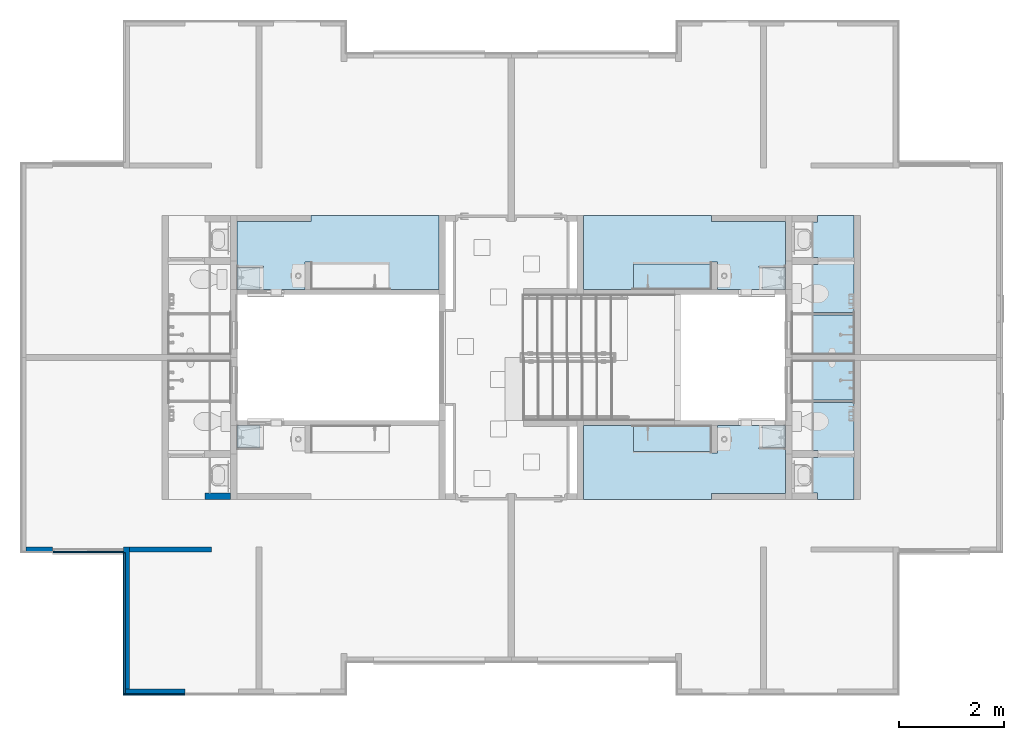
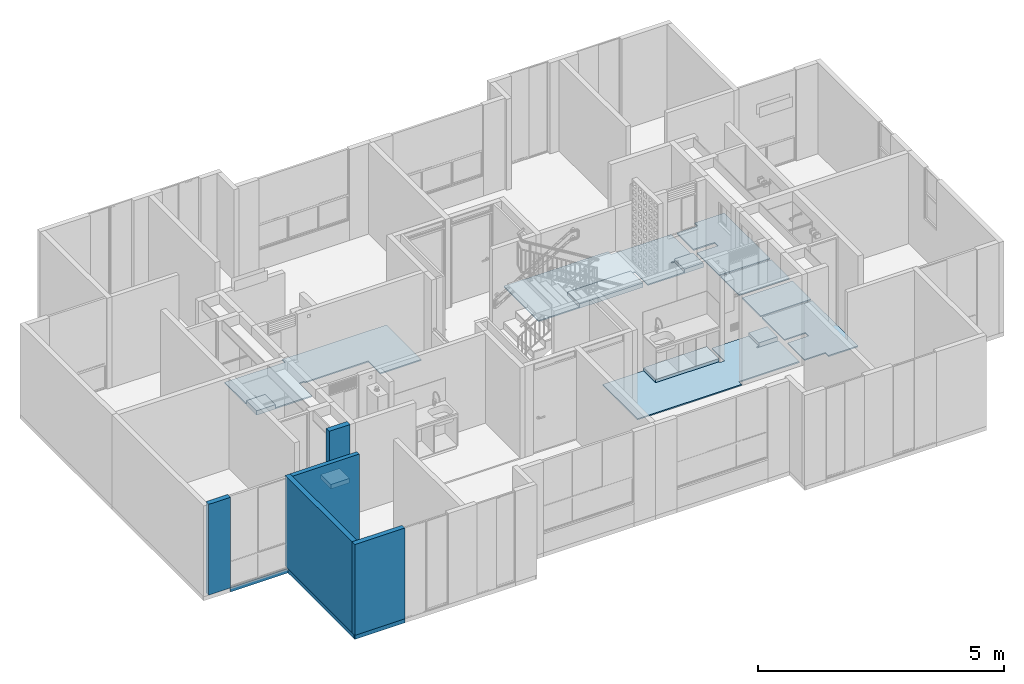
# One storey, part 3 of 48: 11 slabs, 8 walls.
"""IFC4 building model written with IfcOpenShell, lengths in metres."""

from ifc_helpers import new_model, entity, si_unit, converted_unit, derived_unit, direction, frame, origin, place, context, subcontext, project, spatial, indexed_curve, outline, extrude, material, constituent, constituent_set, type_object, element, save


model = new_model("IFC4")

# Units and contexts
model_context = context("Model", 3, precision=1e-05, world=origin(), true_north=direction((6.123031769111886e-17, 1.0)))
body_context = subcontext(model_context, "Body", "Model", "MODEL_VIEW")
ifc_project = project(units=[si_unit("LENGTHUNIT", "METRE"), si_unit("AREAUNIT", "SQUARE_METRE"), si_unit("VOLUMEUNIT", "CUBIC_METRE"), converted_unit("PLANEANGLEUNIT", "DEGREE", entity("IfcRatioMeasure", 0.017453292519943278), si_unit("PLANEANGLEUNIT", "RADIAN"), dimensions=[0, 0, 0, 0, 0, 0, 0]), si_unit("MASSUNIT", "GRAM", prefix="KILO"), derived_unit("MASSDENSITYUNIT", [(si_unit("MASSUNIT", "GRAM", prefix="KILO"), 1), (si_unit("LENGTHUNIT", "METRE"), -3)]), derived_unit("IONCONCENTRATIONUNIT", [(si_unit("MASSUNIT", "GRAM", prefix="KILO"), 1), (si_unit("LENGTHUNIT", "METRE"), -3)]), derived_unit("MOMENTOFINERTIAUNIT", [(si_unit("LENGTHUNIT", "METRE"), 4)]), si_unit("TIMEUNIT", "SECOND"), si_unit("FREQUENCYUNIT", "HERTZ"), si_unit("THERMODYNAMICTEMPERATUREUNIT", "DEGREE_CELSIUS"), derived_unit("THERMALTRANSMITTANCEUNIT", [(si_unit("MASSUNIT", "GRAM", prefix="KILO"), 1), (si_unit("THERMODYNAMICTEMPERATUREUNIT", "KELVIN"), -1), (si_unit("TIMEUNIT", "SECOND"), -3)]), derived_unit("THERMALCONDUCTANCEUNIT", [(si_unit("MASSUNIT", "GRAM", prefix="KILO"), 1), (si_unit("THERMODYNAMICTEMPERATUREUNIT", "KELVIN"), -1), (si_unit("TIMEUNIT", "SECOND"), -3), (si_unit("LENGTHUNIT", "METRE"), 1)]), derived_unit("VOLUMETRICFLOWRATEUNIT", [(si_unit("LENGTHUNIT", "METRE"), 3), (si_unit("TIMEUNIT", "SECOND"), -1)]), derived_unit("MASSFLOWRATEUNIT", [(si_unit("MASSUNIT", "GRAM", prefix="KILO"), 1), (si_unit("TIMEUNIT", "SECOND"), -1)]), derived_unit("ROTATIONALFREQUENCYUNIT", [(si_unit("TIMEUNIT", "SECOND"), -1)]), si_unit("ELECTRICCURRENTUNIT", "AMPERE"), si_unit("ELECTRICVOLTAGEUNIT", "VOLT"), si_unit("POWERUNIT", "WATT"), si_unit("FORCEUNIT", "NEWTON", prefix="KILO"), si_unit("ILLUMINANCEUNIT", "LUX"), si_unit("LUMINOUSFLUXUNIT", "LUMEN"), si_unit("LUMINOUSINTENSITYUNIT", "CANDELA"), derived_unit("USERDEFINED", [(si_unit("MASSUNIT", "GRAM", prefix="KILO"), -1), (si_unit("LENGTHUNIT", "METRE"), -2), (si_unit("TIMEUNIT", "SECOND"), 3), (si_unit("LUMINOUSFLUXUNIT", "LUMEN"), 1)]), derived_unit("USERDEFINED", [(si_unit("MASSUNIT", "GRAM", prefix="KILO"), 1), (si_unit("TIMEUNIT", "SECOND"), -3), (si_unit("LENGTHUNIT", "METRE"), 3), (si_unit("ELECTRICCURRENTUNIT", "AMPERE"), -2)]), derived_unit("SOUNDPOWERUNIT", [(si_unit("MASSUNIT", "GRAM", prefix="KILO"), 1), (si_unit("TIMEUNIT", "SECOND"), -3), (si_unit("LENGTHUNIT", "METRE"), 2)]), derived_unit("SOUNDPRESSUREUNIT", [(si_unit("MASSUNIT", "GRAM", prefix="KILO"), 1), (si_unit("LENGTHUNIT", "METRE"), -1), (si_unit("TIMEUNIT", "SECOND"), -2)]), derived_unit("LINEARVELOCITYUNIT", [(si_unit("LENGTHUNIT", "METRE"), 1), (si_unit("TIMEUNIT", "SECOND"), -1)]), si_unit("PRESSUREUNIT", "PASCAL"), derived_unit("USERDEFINED", [(si_unit("MASSUNIT", "GRAM", prefix="KILO"), 1), (si_unit("LENGTHUNIT", "METRE"), -2), (si_unit("TIMEUNIT", "SECOND"), -2)]), derived_unit("LINEARFORCEUNIT", [(si_unit("MASSUNIT", "GRAM", prefix="KILO"), 1), (si_unit("TIMEUNIT", "SECOND"), -2)]), derived_unit("PLANARFORCEUNIT", [(si_unit("MASSUNIT", "GRAM", prefix="KILO"), 1), (si_unit("LENGTHUNIT", "METRE"), -1), (si_unit("TIMEUNIT", "SECOND"), -2)]), derived_unit("SPECIFICHEATCAPACITYUNIT", [(si_unit("THERMODYNAMICTEMPERATUREUNIT", "KELVIN"), -1), (si_unit("LENGTHUNIT", "METRE"), 2), (si_unit("TIMEUNIT", "SECOND"), -2)]), derived_unit("HEATINGVALUEUNIT", [(si_unit("LENGTHUNIT", "METRE"), 2), (si_unit("TIMEUNIT", "SECOND"), -2)]), derived_unit("VAPORPERMEABILITYUNIT", [(si_unit("LENGTHUNIT", "METRE"), -1), (si_unit("TIMEUNIT", "SECOND"), 1)]), derived_unit("DYNAMICVISCOSITYUNIT", [(si_unit("MASSUNIT", "GRAM", prefix="KILO"), 1), (si_unit("TIMEUNIT", "SECOND"), -1), (si_unit("LENGTHUNIT", "METRE"), -1)]), derived_unit("THERMALEXPANSIONCOEFFICIENTUNIT", [(si_unit("THERMODYNAMICTEMPERATUREUNIT", "KELVIN"), -1)]), derived_unit("MODULUSOFELASTICITYUNIT", [(si_unit("MASSUNIT", "GRAM", prefix="KILO"), 1), (si_unit("LENGTHUNIT", "METRE"), -1), (si_unit("TIMEUNIT", "SECOND"), -2)]), derived_unit("ISOTHERMALMOISTURECAPACITYUNIT", [(si_unit("LENGTHUNIT", "METRE"), 3), (si_unit("MASSUNIT", "GRAM", prefix="KILO"), -1)]), derived_unit("MOISTUREDIFFUSIVITYUNIT", [(si_unit("TIMEUNIT", "SECOND"), -1), (si_unit("LENGTHUNIT", "METRE"), 2)])], contexts=[model_context])

# Site, building, storey
site_placement = place(None, origin())
site = spatial("IfcSite", under=ifc_project, at=site_placement, Name="Default", CompositionType="ELEMENT")
building_placement = place(site_placement, origin())
building = spatial("IfcBuilding", under=site, at=building_placement, CompositionType="ELEMENT")
storey_placement = place(building_placement, frame((0.0, 0.0, 4.700000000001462)))
storey = spatial("IfcBuildingStorey", under=building, at=storey_placement, Name="Nivel 3", CompositionType="ELEMENT", Elevation=4.700000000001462)

# Slabs
ifc_material_1 = material(Name="Ceramica 0.45m x 0.45m gris", Category="Materials")
ifc_constituent_1 = constituent(ifc_material_1, Name="Ceramica 0.45m x 0.45m gris", Category="Materials")
ifc_material_2 = material(Name="Mortero de pega", Category="Materials")
ifc_constituent_2 = constituent(ifc_material_2, Name="Mortero de pega", Category="Materials")
ifc_constituent_set_1 = constituent_set(constituents=[ifc_constituent_1, ifc_constituent_2], Name="Floor:C2030.20 - 0.45 x 0.45 - Enchape cerámico - Mortero de Pega + Cerámica gris")
slab_type_1 = type_object("IfcSlabType", Name="Floor:C2030.20 - 0.45 x 0.45 - Enchape cerámico - Mortero de Pega + Cerámica gris", PredefinedType="FLOOR", material=ifc_constituent_set_1)
slab_1_placement = place(storey_placement, origin())
element("IfcSlab", 1, at=slab_1_placement, inside=storey, type_object=slab_type_1, material=ifc_constituent_set_1, Name="Floor:C2030.20 - 0.45 x 0.45 - Enchape cerámico - Mortero de Pega + Cerámica gris", ObjectType="Floor:C2030.20 - 0.45 x 0.45 - Enchape cerámico - Mortero de Pega + Cerámica gris", PredefinedType="FLOOR", context=body_context, shape_type="SweptSolid", body=[
    extrude(outline(indexed_curve([(0.06375012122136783, -0.725999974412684), (1.478750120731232, -0.725999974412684), (1.4787501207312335, 0.12399999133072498), (0.9787496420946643, 0.12399999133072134), (0.9787496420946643, 0.15799999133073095), (1.0387496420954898, 0.15799999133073), (1.0387496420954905, 0.5734999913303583), (0.17875012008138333, 0.5734999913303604), (0.1787501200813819, 0.053999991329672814), (0.06375012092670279, 0.05399999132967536), (0.06375012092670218, 0.08399999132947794), (-1.4212498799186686, 0.08399999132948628), (-1.4212498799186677, 0.5734999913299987), (-2.3812498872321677, 0.5734999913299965), (-2.3812498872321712, -0.8409999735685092), (0.06375012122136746, -0.8409999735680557), (0.06375012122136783, -0.725999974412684)], self_intersect=False)), frame((5.566250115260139, -4.5510000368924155, 0.019999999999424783), z_axis=(0.0, 0.0, 1.0), x_axis=(-1.0, 0.0, 0.0)), (0.0, 0.0, 1.0), 0.009999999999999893),
    extrude(outline(indexed_curve([(-0.8409999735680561, 0.06375012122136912), (-0.840999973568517, -2.381249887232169), (0.5734999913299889, -2.3812498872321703), (0.5734999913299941, -1.4212498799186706), (0.08399999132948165, -1.4212498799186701), (0.08399999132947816, 0.0637501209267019), (0.05399999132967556, 0.06375012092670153), (0.0539999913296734, 0.17875012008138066), (0.5734999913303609, 0.1787501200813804), (0.5734999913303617, 1.0387496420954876), (0.1579999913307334, 1.0387496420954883), (0.15799999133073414, 0.9787496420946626), (0.12399999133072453, 0.9787496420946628), (0.1239999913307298, 1.4787501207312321), (-0.7259999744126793, 1.4787501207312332), (-0.7259999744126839, 0.06375012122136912), (-0.8409999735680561, 0.06375012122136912)], self_intersect=False)), frame((5.5662501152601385, -4.5510000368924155, 0.0), z_axis=(0.0, 0.0, -1.0), x_axis=(0.0, -1.0, 0.0)), (0.0, 0.0, -1.0), 0.020000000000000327),
])
slab_2_placement = place(storey_placement, origin())
element("IfcSlab", 2, at=slab_2_placement, inside=storey, type_object=slab_type_1, material=ifc_constituent_set_1, Name="Floor:C2030.20 - 0.45 x 0.45 - Enchape cerámico - Mortero de Pega + Cerámica gris", ObjectType="Floor:C2030.20 - 0.45 x 0.45 - Enchape cerámico - Mortero de Pega + Cerámica gris", PredefinedType="FLOOR", context=body_context, shape_type="SweptSolid", body=[
    extrude(outline(indexed_curve([(-0.5924994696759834, -0.3749999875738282), (0.5924994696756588, -0.3749999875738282), (0.5924994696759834, 0.3749999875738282), (-0.5924994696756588, 0.3749999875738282), (-0.5924994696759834, -0.3749999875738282)], self_intersect=False)), frame((15.274999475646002, -5.9900000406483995, 0.019999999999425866)), (0.0, 0.0, 1.0), 0.009999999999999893),
    extrude(outline(indexed_curve([(0.1950000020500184, -0.43399957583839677), (1.1099999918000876, -0.43399957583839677), (1.109999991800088, 0.7509993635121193), (-0.7449999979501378, 0.75099936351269), (-0.7449999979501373, 0.05600042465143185), (-0.6199999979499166, 0.05600042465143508), (-0.6199999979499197, -0.43399957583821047), (0.06000000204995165, -0.43399957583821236), (0.06000000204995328, 0.060999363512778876), (0.19500000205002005, 0.06099936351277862), (0.1950000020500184, -0.43399957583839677)], self_intersect=False)), frame((15.116499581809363, -4.455000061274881, 0.019999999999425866), z_axis=(0.0, 0.0, 1.0), x_axis=(0.0, -1.0, 0.0)), (0.0, 0.0, 1.0), 0.009999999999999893),
    extrude(outline(indexed_curve([(-1.1099999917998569, -0.7509993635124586), (0.7449999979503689, -0.7509993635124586), (0.7449999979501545, -0.056000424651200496), (0.6199999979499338, -0.05600042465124), (0.6199999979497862, 0.43399957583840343), (-0.06000000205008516, 0.43399957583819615), (-0.06000000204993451, -0.06099936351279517), (-0.1950000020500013, -0.06099936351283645), (-0.19500000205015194, 0.4339995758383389), (-1.109999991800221, 0.43399957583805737), (-1.1099999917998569, -0.7509993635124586)], self_intersect=False)), frame((15.116499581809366, -4.455000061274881, 0.0), z_axis=(0.0, 0.0, 1.0), x_axis=(0.0, 1.0, 0.0)), (0.0, 0.0, 1.0), 0.020000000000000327),
    extrude(outline(indexed_curve([(-0.5924994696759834, -0.3749999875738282), (0.5924994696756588, -0.3749999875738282), (0.5924994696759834, 0.3749999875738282), (-0.5924994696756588, 0.3749999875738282), (-0.5924994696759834, -0.3749999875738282)], self_intersect=False)), frame((15.274999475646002, -5.9900000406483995, 0.0)), (0.0, 0.0, 1.0), 0.020000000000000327),
])
slab_3_placement = place(storey_placement, origin())
element("IfcSlab", 3, at=slab_3_placement, inside=storey, type_object=slab_type_1, material=ifc_constituent_set_1, Name="Floor:C2030.20 - 0.45 x 0.45 - Enchape cerámico - Mortero de Pega + Cerámica gris", ObjectType="Floor:C2030.20 - 0.45 x 0.45 - Enchape cerámico - Mortero de Pega + Cerámica gris", PredefinedType="FLOOR", context=body_context, shape_type="SweptSolid", body=[
    extrude(outline(indexed_curve([(-0.06375012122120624, -0.8409999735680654), (2.381249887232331, -0.8409999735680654), (2.381249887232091, 0.5734999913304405), (1.4212498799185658, 0.5734999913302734), (1.4212498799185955, 0.08399999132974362), (-0.06375012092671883, 0.08399999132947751), (-0.06375012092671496, 0.05399999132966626), (-0.17875012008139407, 0.05399999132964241), (-0.17875012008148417, 0.5734999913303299), (-1.0387496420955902, 0.5734999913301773), (-1.0387496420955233, 0.15799999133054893), (-0.9787496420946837, 0.15799999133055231), (-0.9787496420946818, 0.12399999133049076), (-1.4787501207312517, 0.12399999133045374), (-1.4787501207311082, -0.7259999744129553), (-0.06375012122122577, -0.7259999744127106), (-0.06375012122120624, -0.8409999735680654)], self_intersect=False)), frame((13.078749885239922, -4.551000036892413, 0.019999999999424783), z_axis=(0.0, 0.0, 1.0), x_axis=(-1.0, 0.0, 0.0)), (0.0, 0.0, 1.0), 0.009999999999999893),
    extrude(outline(indexed_curve([(-0.06375012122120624, -0.8409999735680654), (2.381249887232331, -0.8409999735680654), (2.381249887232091, 0.5734999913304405), (1.4212498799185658, 0.5734999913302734), (1.4212498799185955, 0.08399999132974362), (-0.06375012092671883, 0.08399999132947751), (-0.0637501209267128, 0.05399999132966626), (-0.17875012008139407, 0.05399999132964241), (-0.17875012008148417, 0.5734999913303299), (-1.0387496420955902, 0.5734999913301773), (-1.0387496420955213, 0.15799999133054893), (-0.9787496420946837, 0.15799999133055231), (-0.9787496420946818, 0.12399999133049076), (-1.4787501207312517, 0.12399999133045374), (-1.478750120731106, -0.7259999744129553), (-0.06375012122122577, -0.7259999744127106), (-0.06375012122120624, -0.8409999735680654)], self_intersect=False)), frame((13.078749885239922, -4.551000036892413, 0.0), z_axis=(0.0, 0.0, 1.0), x_axis=(-1.0, 0.0, 0.0)), (0.0, 0.0, 1.0), 0.020000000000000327),
])
slab_4_placement = place(storey_placement, origin())
element("IfcSlab", 4, at=slab_4_placement, inside=storey, type_object=slab_type_1, material=ifc_constituent_set_1, Name="Floor:C2030.20 - 0.45 x 0.45 - Enchape cerámico - Mortero de Pega + Cerámica gris", ObjectType="Floor:C2030.20 - 0.45 x 0.45 - Enchape cerámico - Mortero de Pega + Cerámica gris", PredefinedType="FLOOR", context=body_context, shape_type="SweptSolid", body=[
    extrude(outline(indexed_curve([(-0.5924994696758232, -0.3749999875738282), (0.5924994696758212, -0.3749999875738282), (0.5924994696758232, 0.3749999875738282), (-0.5924994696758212, 0.3749999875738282), (-0.5924994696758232, -0.3749999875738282)], self_intersect=False)), frame((15.274999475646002, -6.860000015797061, 0.019999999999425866)), (0.0, 0.0, 1.0), 0.009999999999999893),
    extrude(outline(indexed_curve([(-0.1950000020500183, -0.06099936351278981), (-0.19500000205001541, 0.4339995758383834), (-1.1099999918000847, 0.43399957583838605), (-1.1099999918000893, -0.75099936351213), (0.7449999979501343, -0.750999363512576), (0.7449999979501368, -0.056000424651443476), (0.6199999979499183, -0.0560004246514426), (0.6199999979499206, 0.4339995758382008), (-0.06000000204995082, 0.4339995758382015), (-0.060000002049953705, -0.06099936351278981), (-0.1950000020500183, -0.06099936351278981)], self_intersect=False)), frame((15.116499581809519, -8.394999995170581, 0.019999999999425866), z_axis=(0.0, 0.0, -1.0), x_axis=(0.0, -1.0, 0.0)), (0.0, 0.0, -1.0), 0.009999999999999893),
    extrude(outline(indexed_curve([(-0.7509993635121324, -1.1099999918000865), (0.43399957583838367, -1.1099999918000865), (0.4339995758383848, -0.1950000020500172), (-0.06099936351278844, -0.19500000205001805), (-0.060999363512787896, -0.06000000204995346), (0.43399957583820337, -0.06000000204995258), (0.43399957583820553, 0.6199999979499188), (-0.05600042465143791, 0.6199999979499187), (-0.056000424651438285, 0.744999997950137), (-0.7509993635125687, 0.7449999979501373), (-0.7509993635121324, -1.1099999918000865)], self_intersect=False)), frame((15.11649958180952, -8.394999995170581, 0.0), z_axis=(0.0, 0.0, 1.0), x_axis=(-1.0, 0.0, 0.0)), (0.0, 0.0, 1.0), 0.020000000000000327),
    extrude(outline(indexed_curve([(-0.3749999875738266, -0.5924994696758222), (0.3749999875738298, -0.5924994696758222), (0.3749999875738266, 0.5924994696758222), (-0.3749999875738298, 0.5924994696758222), (-0.3749999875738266, -0.5924994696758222)], self_intersect=False)), frame((15.274999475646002, -6.860000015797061, 0.0), z_axis=(0.0, 0.0, 1.0), x_axis=(0.0, -1.0, 0.0)), (0.0, 0.0, 1.0), 0.020000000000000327),
])
slab_5_placement = place(storey_placement, origin())
element("IfcSlab", 5, at=slab_5_placement, inside=storey, type_object=slab_type_1, material=ifc_constituent_set_1, Name="Floor:C2030.20 - 0.45 x 0.45 - Enchape cerámico - Mortero de Pega + Cerámica gris", ObjectType="Floor:C2030.20 - 0.45 x 0.45 - Enchape cerámico - Mortero de Pega + Cerámica gris", PredefinedType="FLOOR", context=body_context, shape_type="SweptSolid", body=[
    extrude(outline(indexed_curve([(0.06375012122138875, -0.725999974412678), (1.478750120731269, -0.725999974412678), (1.478750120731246, 0.12399999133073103), (0.9787496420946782, 0.12399999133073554), (0.9787496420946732, 0.15799999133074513), (1.0387496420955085, 0.15799999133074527), (1.0387496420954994, 0.5734999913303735), (0.1787501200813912, 0.5734999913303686), (0.17875012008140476, 0.053999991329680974), (0.06375012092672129, 0.0539999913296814), (0.06375012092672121, 0.083999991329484), (-1.4212498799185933, 0.08399999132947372), (-1.4212498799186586, 0.5734999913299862), (-2.3812498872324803, 0.5734999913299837), (-2.3812498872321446, -0.8409999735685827), (0.0637501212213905, -0.8409999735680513), (0.06375012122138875, -0.725999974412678)], self_intersect=False)), frame((13.078749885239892, -8.299000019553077, 0.019999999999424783)), (0.0, 0.0, 1.0), 0.009999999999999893),
    extrude(outline(indexed_curve([(-0.8409999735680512, 0.06375012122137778), (-0.8409999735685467, -2.381249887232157), (0.5734999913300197, -2.3812498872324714), (0.5734999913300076, -1.42124987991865), (0.08399999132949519, -1.421249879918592), (0.08399999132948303, 0.06375012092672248), (0.05399999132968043, 0.06375012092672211), (0.05399999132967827, 0.17875012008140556), (0.5734999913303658, 0.17875012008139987), (0.5734999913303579, 1.038749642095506), (0.1579999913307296, 1.038749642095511), (0.15799999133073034, 0.9787496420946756), (0.12399999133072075, 0.9787496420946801), (0.12399999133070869, 1.478750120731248), (-0.7259999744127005, 1.478750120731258), (-0.725999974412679, 0.06375012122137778), (-0.8409999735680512, 0.06375012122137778)], self_intersect=False)), frame((13.078749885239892, -8.299000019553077, 0.0), z_axis=(0.0, 0.0, -1.0), x_axis=(0.0, 1.0, 0.0)), (0.0, 0.0, -1.0), 0.020000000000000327),
])
ifc_material_3 = material(Name="Concreto (Aire)", Category="Materials")
slab_type_2 = type_object("IfcSlabType", Name="Floor:B1010 - 0.10m - Poyo - Concreto", PredefinedType="FLOOR", material=ifc_material_3)
slab_6_placement = place(storey_placement, origin())
element("IfcSlab", 6, at=slab_6_placement, inside=storey, type_object=slab_type_2, material=ifc_material_3, Name="Floor:B1010 - 0.10m - Poyo - Concreto", ObjectType="Floor:B1010 - 0.10m - Poyo - Concreto", PredefinedType="FLOOR", context=body_context, shape_type="SweptSolid", body=[
    extrude(outline(indexed_curve([(-0.24475000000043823, -0.7425000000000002), (0.2447500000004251, -0.7425000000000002), (0.24475000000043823, 0.7425000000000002), (-0.2447500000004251, 0.7425000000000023), (-0.24475000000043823, -0.7425000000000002)], self_intersect=False)), frame((12.400000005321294, -4.87975002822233, 0.10999999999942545), z_axis=(0.0, 0.0, -1.0), x_axis=(0.0, 1.0, 0.0)), (0.0, 0.0, 1.0), 0.1099999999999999),
])
slab_7_placement = place(storey_placement, origin())
element("IfcSlab", 7, at=slab_7_placement, inside=storey, type_object=slab_type_2, material=ifc_material_3, Name="Floor:B1010 - 0.10m - Poyo - Concreto", ObjectType="Floor:B1010 - 0.10m - Poyo - Concreto", PredefinedType="FLOOR", context=body_context, shape_type="SweptSolid", body=[
    extrude(outline(indexed_curve([(-0.2447500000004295, -0.7425000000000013), (0.2447500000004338, -0.7425000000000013), (0.24475000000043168, 0.7425000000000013), (-0.2447500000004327, 0.742499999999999), (-0.2447500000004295, -0.7425000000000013)], self_intersect=False)), frame((12.400000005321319, -7.9702500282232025, 0.10999999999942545), z_axis=(0.0, 0.0, -1.0), x_axis=(0.0, 1.0, 0.0)), (0.0, 0.0, 1.0), 0.1099999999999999),
])
ifc_constituent_3 = constituent(ifc_material_1, Name="Ceramica 0.45m x 0.45m gris", Category="Materials")
ifc_constituent_4 = constituent(ifc_material_3, Name="Concreto (Aire)", Category="Materials")
ifc_constituent_set_2 = constituent_set(constituents=[ifc_constituent_3, ifc_constituent_4], Name="Floor:B1010 - 0.10m - Poyo - Concreto+ cerámica")
slab_type_3 = type_object("IfcSlabType", Name="Floor:B1010 - 0.10m - Poyo - Concreto+ cerámica", PredefinedType="FLOOR", material=ifc_constituent_set_2)
slab_8_placement = place(storey_placement, origin())
element("IfcSlab", 8, at=slab_8_placement, inside=storey, type_object=slab_type_3, material=ifc_constituent_set_2, Name="Floor:B1010 - 0.10m - Poyo - Concreto+ cerámica", ObjectType="Floor:B1010 - 0.10m - Poyo - Concreto+ cerámica", PredefinedType="FLOOR", context=body_context, shape_type="SweptSolid", body=[
    extrude(outline(indexed_curve([(-0.20774999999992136, -0.220000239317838), (0.20774999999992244, -0.220000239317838), (0.20774999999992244, 0.22000023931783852), (-0.20774999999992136, 0.220000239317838), (-0.20774999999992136, -0.220000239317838)], self_intersect=False)), frame((4.307500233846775, -4.916750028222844, 0.09999999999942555), z_axis=(0.0, 0.0, 1.0), x_axis=(0.0, -1.0, 0.0)), (0.0, 0.0, 1.0), 0.009999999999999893),
    extrude(outline(indexed_curve([(-0.220000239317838, -0.20774999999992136), (0.22000023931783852, -0.20774999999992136), (0.22000023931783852, 0.20774999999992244), (-0.220000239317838, 0.20774999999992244), (-0.220000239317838, -0.20774999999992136)], self_intersect=False)), frame((4.307500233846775, -4.916750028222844, 0.0), z_axis=(0.0, 0.0, 1.0), x_axis=(-1.0, 0.0, 0.0)), (0.0, 0.0, 1.0), 0.1),
])
slab_9_placement = place(storey_placement, origin())
element("IfcSlab", 9, at=slab_9_placement, inside=storey, type_object=slab_type_3, material=ifc_constituent_set_2, Name="Floor:B1010 - 0.10m - Poyo - Concreto+ cerámica", ObjectType="Floor:B1010 - 0.10m - Poyo - Concreto+ cerámica", PredefinedType="FLOOR", context=body_context, shape_type="SweptSolid", body=[
    extrude(outline(indexed_curve([(-0.2077499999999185, -0.220000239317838), (0.20774999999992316, -0.220000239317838), (0.20774999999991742, 0.22000023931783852), (-0.20774999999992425, 0.22000023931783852), (-0.2077499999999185, -0.220000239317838)], self_intersect=False)), frame((4.307500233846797, -7.933250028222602, 0.09999999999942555), z_axis=(0.0, 0.0, 1.0), x_axis=(0.0, 1.0, 0.0)), (0.0, 0.0, 1.0), 0.009999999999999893),
    extrude(outline(indexed_curve([(-0.2077499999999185, -0.220000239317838), (0.20774999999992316, -0.220000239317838), (0.20774999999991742, 0.22000023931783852), (-0.20774999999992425, 0.22000023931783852), (-0.2077499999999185, -0.220000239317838)], self_intersect=False)), frame((4.307500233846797, -7.933250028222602, 0.0), z_axis=(0.0, 0.0, 1.0), x_axis=(0.0, 1.0, 0.0)), (0.0, 0.0, 1.0), 0.1),
])
slab_10_placement = place(storey_placement, origin())
element("IfcSlab", 10, at=slab_10_placement, inside=storey, type_object=slab_type_3, material=ifc_constituent_set_2, Name="Floor:B1010 - 0.10m - Poyo - Concreto+ cerámica", ObjectType="Floor:B1010 - 0.10m - Poyo - Concreto+ cerámica", PredefinedType="FLOOR", context=body_context, shape_type="SweptSolid", body=[
    extrude(outline(indexed_curve([(-0.20774999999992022, -0.220000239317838), (0.20774999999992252, -0.220000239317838), (0.20774999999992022, 0.220000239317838), (-0.20774999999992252, 0.220000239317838), (-0.20774999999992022, -0.220000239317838)], self_intersect=False)), frame((14.33749976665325, -4.916750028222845, 0.09999999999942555), z_axis=(0.0, 0.0, 1.0), x_axis=(0.0, -1.0, 0.0)), (0.0, 0.0, 1.0), 0.009999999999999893),
    extrude(outline(indexed_curve([(-0.20774999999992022, -0.220000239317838), (0.20774999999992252, -0.220000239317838), (0.20774999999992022, 0.220000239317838), (-0.20774999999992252, 0.220000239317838), (-0.20774999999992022, -0.220000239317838)], self_intersect=False)), frame((14.33749976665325, -4.916750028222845, 0.0), z_axis=(0.0, 0.0, 1.0), x_axis=(0.0, -1.0, 0.0)), (0.0, 0.0, 1.0), 0.1),
])
slab_11_placement = place(storey_placement, origin())
element("IfcSlab", 11, at=slab_11_placement, inside=storey, type_object=slab_type_3, material=ifc_constituent_set_2, Name="Floor:B1010 - 0.10m - Poyo - Concreto+ cerámica", ObjectType="Floor:B1010 - 0.10m - Poyo - Concreto+ cerámica", PredefinedType="FLOOR", context=body_context, shape_type="SweptSolid", body=[
    extrude(outline(indexed_curve([(-0.2077499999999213, -0.22000023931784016), (0.20774999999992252, -0.22000023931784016), (0.20774999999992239, 0.22000023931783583), (-0.20774999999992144, 0.22000023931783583), (-0.2077499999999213, -0.22000023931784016)], self_intersect=False)), frame((14.337499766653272, -7.9332500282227, 0.09999999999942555), z_axis=(0.0, 0.0, 1.0), x_axis=(0.0, 1.0, 0.0)), (0.0, 0.0, 1.0), 0.009999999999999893),
    extrude(outline(indexed_curve([(-0.22000023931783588, -0.20774999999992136), (0.22000023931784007, -0.20774999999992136), (0.2200002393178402, 0.20774999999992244), (-0.22000023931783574, 0.20774999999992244), (-0.22000023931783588, -0.20774999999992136)], self_intersect=False)), frame((14.337499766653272, -7.9332500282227, 0.0)), (0.0, 0.0, 1.0), 0.1),
])

# Walls
ifc_material_4 = material(Name="Ladrillo claro (Aire)", Category="Materials")
wall_type_1 = type_object("IfcWallType", Name="Basic Wall:B2010 - 0.115m - Muro exterior en mampostería - Ladrillo", PredefinedType="STANDARD")
wall_1_placement = place(storey_placement, frame((1.9749999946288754, -10.04000002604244, 0.0), z_axis=(0.0, 0.0, 1.0), x_axis=(0.0, -1.0, 0.0)))
element("IfcWall", 12, at=wall_1_placement, inside=storey, type_object=wall_type_1, material=ifc_material_4, Name="Basic Wall:B2010 - 0.115m - Muro exterior en mampostería - Ladrillo", ObjectType="Basic Wall:B2010 - 0.115m - Muro exterior en mampostería - Ladrillo", PredefinedType="NOTDEFINED", context=body_context, shape_type="SweptSolid", body=[
    extrude(outline(indexed_curve([(2.7150000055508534, 0.057499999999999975), (2.799198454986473e-16, 0.057499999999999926), (-2.799198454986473e-16, -0.057499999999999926), (2.715000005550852, -0.05749999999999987), (2.7150000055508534, 0.057499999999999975)], self_intersect=False)), origin(), (0.0, 0.0, 1.0), 2.2500000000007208),
])
ifc_material_5 = material(Name="LADRILLO CLARO", Category="Materials")
wall_type_2 = type_object("IfcWallType", Name="Basic Wall:B2010 - 0.115m - ME mampostería no estructural - Ladrillo", PredefinedType="STANDARD")
wall_2_placement = place(storey_placement, frame((0.057499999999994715, -10.097500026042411, 0.0)))
element("IfcWall", 13, at=wall_2_placement, inside=storey, type_object=wall_type_2, material=ifc_material_5, Name="Basic Wall:B2010 - 0.115m - ME mampostería no estructural - Ladrillo", ObjectType="Basic Wall:B2010 - 0.115m - ME mampostería no estructural - Ladrillo", PredefinedType="NOTDEFINED", context=body_context, shape_type="SweptSolid", body=[
    extrude(outline(indexed_curve([(0.5099999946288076, 0.057499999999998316), (-1.1590771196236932e-18, 0.057499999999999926), (1.1590771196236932e-18, -0.057499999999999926), (0.5099999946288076, -0.05750000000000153), (0.5099999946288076, 0.057499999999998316)], self_intersect=False)), origin(), (0.0, 0.0, 1.0), 2.2500000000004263),
])
wall_3_placement = place(storey_placement, frame((3.091699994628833, -12.812500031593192, 0.0), z_axis=(0.0, 0.0, 1.0), x_axis=(-1.0, 0.0, 0.0)))
element("IfcWall", 14, at=wall_3_placement, inside=storey, type_object=wall_type_2, material=ifc_material_5, Name="Basic Wall:B2010 - 0.115m - ME mampostería no estructural - Ladrillo", ObjectType="Basic Wall:B2010 - 0.115m - ME mampostería no estructural - Ladrillo", PredefinedType="NOTDEFINED", context=body_context, shape_type="SweptSolid", body=[
    extrude(outline(indexed_curve([(1.174199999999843, 0.05749999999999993), (-3.1869443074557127e-16, 0.057499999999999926), (-2.227391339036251e-16, -0.057499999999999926), (1.174199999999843, -0.05749999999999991), (1.174199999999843, 0.05749999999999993)], self_intersect=False)), origin(), (0.0, 0.0, 1.0), 2.250000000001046),
])
wall_type_3 = type_object("IfcWallType", Name="Basic Wall:B2010 - 0.10m - Muro interior en concreto", PredefinedType="STANDARD")
wall_4_placement = place(storey_placement, frame((2.032499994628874, -10.090000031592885, 0.0)))
element("IfcWall", 15, at=wall_4_placement, inside=storey, type_object=wall_type_3, material=ifc_material_3, Name="Basic Wall:B2010 - 0.10m - Muro interior en concreto", ObjectType="Basic Wall:B2010 - 0.10m - Muro interior en concreto", PredefinedType="NOTDEFINED", context=body_context, shape_type="SweptSolid", body=[
    extrude(outline(indexed_curve([(1.5699999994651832, 0.050000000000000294), (-5.230813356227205e-17, 0.04999999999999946), (5.230813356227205e-17, -0.04999999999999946), (1.5699999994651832, -0.049999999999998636), (1.5699999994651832, 0.050000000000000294)], self_intersect=False)), origin(), (0.0, 0.0, 1.0), 2.2499999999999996),
])
ifc_material_6 = material(Name="Pañete", Category="Materials")
ifc_constituent_5 = constituent(ifc_material_6, Name="Pañete", Category="Materials")
ifc_constituent_6 = constituent(ifc_material_4, Name="Ladrillo claro (Aire)", Category="Materials")
ifc_constituent_set_3 = constituent_set(constituents=[ifc_constituent_5, ifc_constituent_6], Name="Basic Wall:B2010 - 0.115m - Muro interior en mampostería - Ladrillo + Pañete")
wall_type_4 = type_object("IfcWallType", Name="Basic Wall:B2010 - 0.115m - Muro interior en mampostería - Ladrillo + Pañete", PredefinedType="STANDARD", material=ifc_constituent_set_3)
wall_5_placement = place(storey_placement, frame((3.4724999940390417, -9.077499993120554, 0.0)))
element("IfcWall", 16, at=wall_5_placement, inside=storey, type_object=wall_type_4, material=ifc_constituent_set_3, Name="Basic Wall:B2010 - 0.115m - Muro interior en mampostería - Ladrillo + Pañete", ObjectType="Basic Wall:B2010 - 0.115m - Muro interior en mampostería - Ladrillo + Pañete", PredefinedType="NOTDEFINED", context=body_context, shape_type="SweptSolid", body=[
    extrude(outline(indexed_curve([(-0.004999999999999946, -0.24500000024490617), (0.004999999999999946, -0.24500000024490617), (0.005000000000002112, 0.24500000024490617), (-0.004999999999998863, 0.24500000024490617), (-0.004999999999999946, -0.24500000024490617)], self_intersect=False)), frame((0.24500000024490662, 0.057499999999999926, 0.0), z_axis=(0.0, 0.0, 1.0), x_axis=(0.0, -1.0, 0.0)), (0.0, 0.0, 1.0), 2.2500000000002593),
    extrude(outline(indexed_curve([(-0.057499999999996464, -0.2450000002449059), (0.0575000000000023, -0.2450000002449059), (0.057499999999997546, 0.24500000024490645), (-0.0575000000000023, 0.24500000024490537), (-0.057499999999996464, -0.2450000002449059)], self_intersect=False)), frame((0.24500000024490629, -0.005000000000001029, 0.0), z_axis=(0.0, 0.0, 1.0), x_axis=(0.0, 1.0, 0.0)), (0.0, 0.0, 1.0), 2.2500000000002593),
])
wall_type_5 = type_object("IfcWallType", Name="Basic Wall:B2010 - 0.03m - ME enchape  no estructural - Ladrillo", PredefinedType="STANDARD")
wall_6_placement = place(storey_placement, frame((1.9324999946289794, -12.84000003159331, -0.1000000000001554), z_axis=(0.0, 0.0, 1.0), x_axis=(0.0, 1.0, 0.0)))
element("IfcWall", 17, at=wall_6_placement, inside=storey, type_object=wall_type_5, material=ifc_material_5, Name="Basic Wall:B2010 - 0.03m - ME enchape  no estructural - Ladrillo", ObjectType="Basic Wall:B2010 - 0.03m - ME enchape  no estructural - Ladrillo", PredefinedType="NOTDEFINED", context=body_context, shape_type="SweptSolid", body=[
    extrude(outline(indexed_curve([(2.6836602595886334, 0.015000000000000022), (2.4689444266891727e-17, 0.015000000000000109), (-2.4689444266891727e-17, -0.015000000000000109), (2.6836602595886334, -0.015000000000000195), (2.6836602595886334, 0.015000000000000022)], self_intersect=False)), origin(), (0.0, 0.0, 1.0), 0.1),
])
wall_7_placement = place(storey_placement, frame((3.0924999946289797, -12.855000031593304, -0.1000000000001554), z_axis=(0.0, 0.0, 1.0), x_axis=(-1.0, 0.0, 0.0)))
element("IfcWall", 18, at=wall_7_placement, inside=storey, type_object=wall_type_5, material=ifc_material_5, Name="Basic Wall:B2010 - 0.03m - ME enchape  no estructural - Ladrillo", ObjectType="Basic Wall:B2010 - 0.03m - ME enchape  no estructural - Ladrillo", PredefinedType="NOTDEFINED", context=body_context, shape_type="SweptSolid", body=[
    extrude(outline(indexed_curve([(1.1750000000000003, 0.015000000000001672), (4.570130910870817e-17, 0.015000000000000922), (-4.570130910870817e-17, -0.015000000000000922), (1.1750000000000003, -0.015000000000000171), (1.1750000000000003, 0.015000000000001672)], self_intersect=False)), origin(), (0.0, 0.0, 1.0), 0.1),
])
wall_8_placement = place(storey_placement, frame((0.5674999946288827, -10.140000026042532, -0.1000000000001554)))
element("IfcWall", 19, at=wall_8_placement, inside=storey, type_object=wall_type_5, material=ifc_material_5, Name="Basic Wall:B2010 - 0.03m - ME enchape  no estructural - Ladrillo", ObjectType="Basic Wall:B2010 - 0.03m - ME enchape  no estructural - Ladrillo", PredefinedType="NOTDEFINED", context=body_context, shape_type="SweptSolid", body=[
    extrude(outline(indexed_curve([(1.3500000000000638, 0.015000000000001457), (-3.150138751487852e-17, 0.015000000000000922), (3.150138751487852e-17, -0.015000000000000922), (1.3500000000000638, -0.015000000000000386), (1.3500000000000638, 0.015000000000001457)], self_intersect=False)), origin(), (0.0, 0.0, 1.0), 0.1),
])

save(model, "model.ifc")
